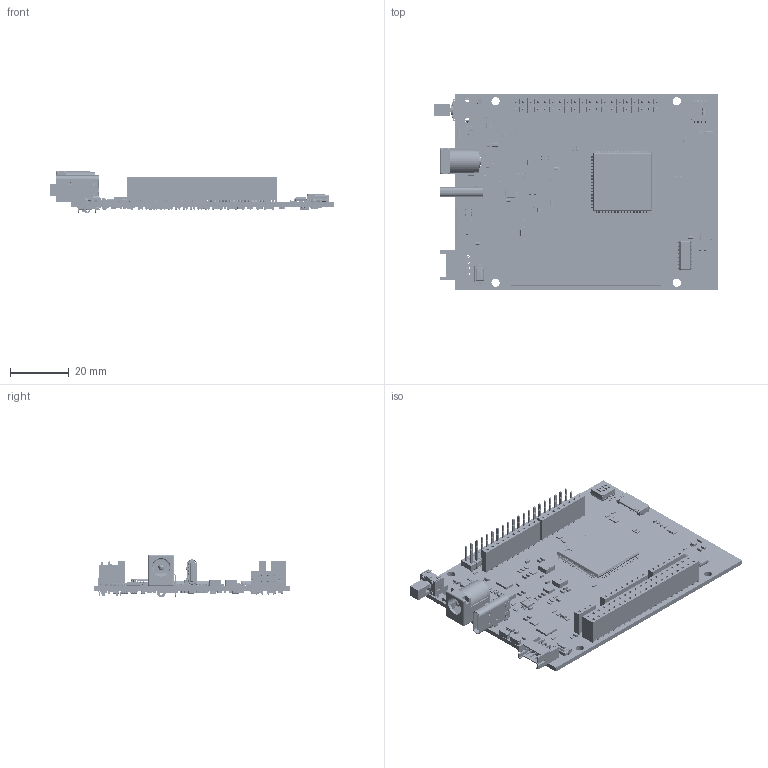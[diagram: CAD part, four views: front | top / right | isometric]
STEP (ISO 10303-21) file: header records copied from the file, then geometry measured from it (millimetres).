
FILE_DESCRIPTION(('Open CASCADE Model'),'2;1');
FILE_NAME('Open CASCADE Shape Model','2024-07-08T16:01:02',('Author'),( 'Open CASCADE'),'Open CASCADE STEP processor 7.5','Open CASCADE 7.5' ,'Unknown');
FILE_SCHEMA(('AUTOMOTIVE_DESIGN { 1 0 10303 214 1 1 1 1 }'));
Length unit declared in the file: millimetre
Products named in the file (2191): Open CASCADE STEP translator 7.5 4390; Open CASCADE STEP translator 7.5 4391; Open CASCADE STEP translator 7.5 4392; Open CASCADE STEP translator 7.5 4393; Open CASCADE STEP translator 7.5 4394; Open CASCADE STEP translator 7.5 4395; Open CASCADE STEP translator 7.5 4396; Open CASCADE STEP translator 7.5 4397; Open CASCADE STEP translator 7.5 4398; Open CASCADE STEP translator 7.5 4399; Open CASCADE STEP translator 7.5 4400; Open CASCADE STEP translator 7.5 4401; Open CASCADE STEP translator 7.5 4402; Open CASCADE STEP translator 7.5 4403; Open CASCADE STEP translator 7.5 4404; Open CASCADE STEP translator 7.5 4405; Open CASCADE STEP translator 7.5 4406; Open CASCADE STEP translator 7.5 4407; Open CASCADE STEP translator 7.5 4408; Open CASCADE STEP translator 7.5 4409; Open CASCADE STEP translator 7.5 4410; Open CASCADE STEP translator 7.5 4411; Open CASCADE STEP translator 7.5 4412; Open CASCADE STEP translator 7.5 4413; Open CASCADE STEP translator 7.5 4414; Open CASCADE STEP translator 7.5 4415; Open CASCADE STEP translator 7.5 4416; Open CASCADE STEP translator 7.5 4417; Open CASCADE STEP translator 7.5 4418; Open CASCADE STEP translator 7.5 4419; Open CASCADE STEP translator 7.5 4420; Open CASCADE STEP translator 7.5 4421; Open CASCADE STEP translator 7.5 4422; Open CASCADE STEP translator 7.5 4423; Open CASCADE STEP translator 7.5 4424; Open CASCADE STEP translator 7.5 4425; Open CASCADE STEP translator 7.5 4426; Open CASCADE STEP translator 7.5 4427; Open CASCADE STEP translator 7.5 4428; Open CASCADE STEP translator 7.5 4429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
Bounding box: 97 x 67 x 14.5 mm (x, y, z)
Volume: 16283.9 mm3; surface area: 31428.2 mm2
Topology: 985 solids, 1219 shells, 22766 faces, 59479 edges, 39607 vertices
Faces by surface type: plane 14862, cylinder 5841, bspline 1096, sphere 815, revolution 104, cone 22, torus 20, extrusion 6
Full cylindrical faces by diameter (mm): 0.155 x1, 0.3 x3, 0.375 x2, 0.4 x14, 0.625 x1, 0.9 x8, 1 x2, 1.02 x115, 1.5 x4, 2.5 x1, 2.8 x4, 3.2 x2
Entity records: 809855 total; most frequent: CARTESIAN_POINT 162282, ORIENTED_EDGE 111944, DIRECTION 110484, EDGE_CURVE 56631, VECTOR 44200, LINE 44194, VERTEX_POINT 36323, AXIS2_PLACEMENT_3D 33090
